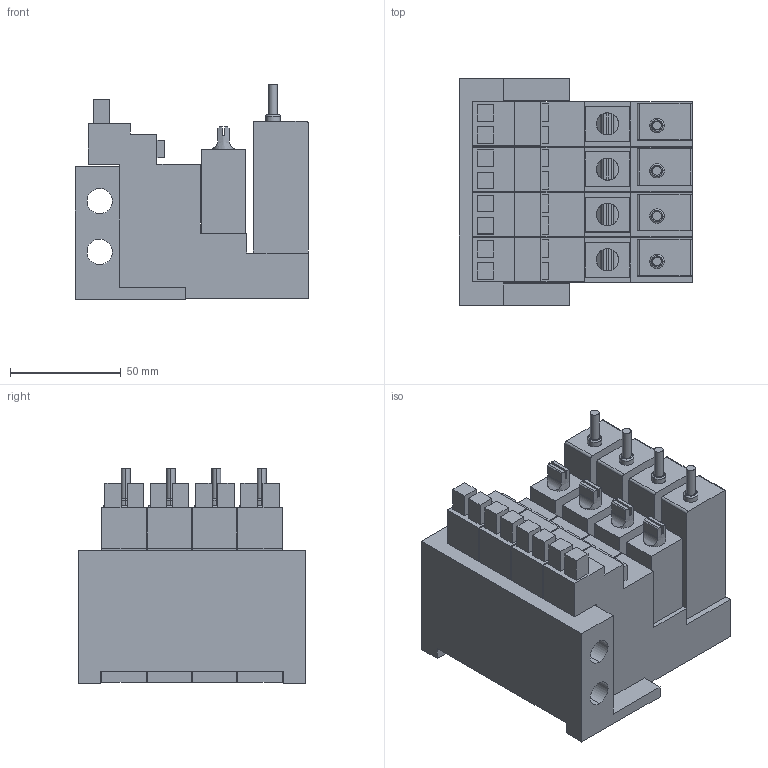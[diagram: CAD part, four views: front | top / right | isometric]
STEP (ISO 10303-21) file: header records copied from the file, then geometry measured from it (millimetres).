
FILE_DESCRIPTION((''),'2;1');
FILE_NAME('','2012-02-10T20:04:19',(''),(''),'','CADfix','');
FILE_SCHEMA(('AUTOMOTIVE_DESIGN { 1 0 10303 214 1 1 1 1 }'));
Length unit declared in the file: millimetre
Bounding box: 105.5 x 102.5 x 97.19 mm (x, y, z)
Volume: 561907.4 mm3; surface area: 116156.9 mm2
Topology: 1 solids, 1 shells, 314 faces, 862 edges, 590 vertices
Faces by surface type: bspline 314
Entity records: 10318 total; most frequent: CARTESIAN_POINT 5186, ORIENTED_EDGE 1724, EDGE_CURVE 862, QUASI_UNIFORM_CURVE 638, VERTEX_POINT 590, EDGE_LOOP 358, FACE_OUTER_BOUND 314, ADVANCED_FACE 314
